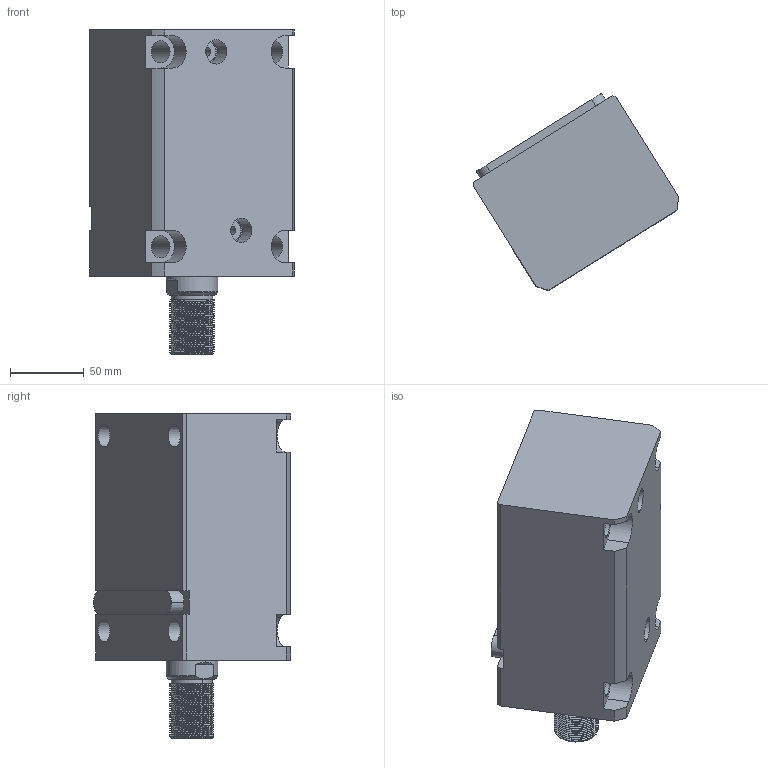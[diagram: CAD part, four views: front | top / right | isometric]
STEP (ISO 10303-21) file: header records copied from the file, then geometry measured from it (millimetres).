
FILE_DESCRIPTION (( 'STEP AP214' ), '1' );
FILE_NAME ('chtb-la63x100w_asm.STEP', '2018-05-17T03:13:31', ( 'Windows' ), ( 'Microsoft' ), 'SwSTEP 2.0', 'SolidWorks 2015', '' );
FILE_SCHEMA (( 'AUTOMOTIVE_DESIGN' ));
Length unit declared in the file: millimetre
Products named in the file (5): CHTB-LA63X100NBT; CHTB-LA63PJ; CHTB63X100WHSG; CHTB-63QG; chtb-la63x100w_asm
Assembly tree (4 placements, depth 2):
  chtb-la63x100w_asm
    CHTB-63QG
    CHTB63X100WHSG
    CHTB-LA63PJ
    CHTB-LA63X100NBT
Bounding box: 138.82 x 133.74 x 220 mm (x, y, z)
Volume: 1435684.9 mm3; surface area: 192391.8 mm2
Topology: 4 solids, 4 shells, 228 faces, 670 edges, 457 vertices
Faces by surface type: cylinder 147, plane 48, bspline 14, cone 13, torus 6
Entity records: 22767 total; most frequent: CARTESIAN_POINT 17124, ORIENTED_EDGE 1332, DIRECTION 940, EDGE_CURVE 666, VERTEX_POINT 457, AXIS2_PLACEMENT_3D 350, EDGE_LOOP 253, VECTOR 240
